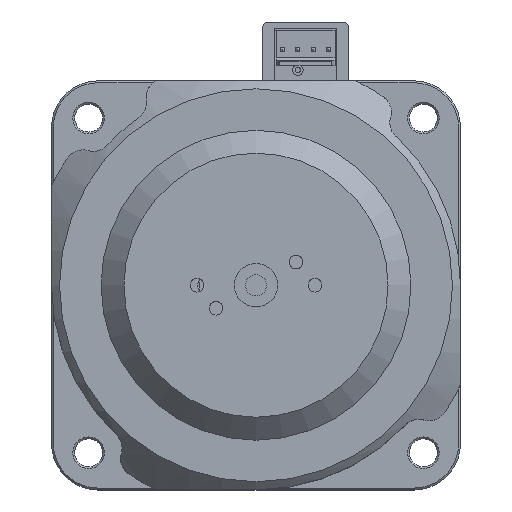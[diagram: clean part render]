
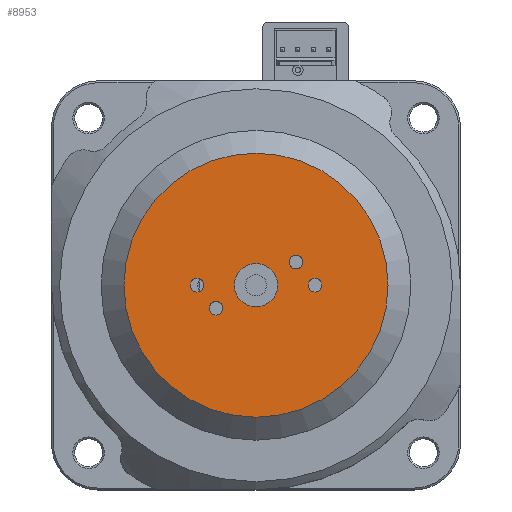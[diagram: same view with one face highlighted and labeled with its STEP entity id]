
A CAD part, top view. The second image highlights one B-rep face of the part: STEP entity #8953.
In plain terms, the highlighted planar face has unit normal (0, 0, 1).
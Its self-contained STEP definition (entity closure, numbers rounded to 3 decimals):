
#25 = AXIS2_PLACEMENT_3D ( 'NONE', #5578, #11596, #7898 ) ;
#384 = EDGE_CURVE ( 'NONE', #412, #412, #3570, .T. ) ;
#401 = DIRECTION ( 'NONE',  ( 1., 0., 0. ) ) ;
#412 = VERTEX_POINT ( 'NONE', #9933 ) ;
#514 = CIRCLE ( 'NONE', #8721, 3.5 ) ;
#961 = EDGE_LOOP ( 'NONE', ( #3564 ) ) ;
#1240 = EDGE_CURVE ( 'NONE', #3286, #3286, #514, .T. ) ;
#1719 = CARTESIAN_POINT ( 'NONE',  ( 6.443, 3.72, 20.8 ) ) ;
#1894 = FACE_BOUND ( 'NONE', #10157, .T. ) ;
#2018 = EDGE_LOOP ( 'NONE', ( #4442 ) ) ;
#2819 = CIRCLE ( 'NONE', #15059, 21.3 ) ;
#2932 = EDGE_CURVE ( 'NONE', #5557, #5557, #3886, .T. ) ;
#3214 = VERTEX_POINT ( 'NONE', #10545 ) ;
#3286 = VERTEX_POINT ( 'NONE', #7875 ) ;
#3369 = CIRCLE ( 'NONE', #14094, 1.1 ) ;
#3445 = EDGE_CURVE ( 'NONE', #3214, #3214, #3369, .T. ) ;
#3564 = ORIENTED_EDGE ( 'NONE', *, *, #3445, .T. ) ;
#3570 = CIRCLE ( 'NONE', #10813, 1.1 ) ;
#3678 = VERTEX_POINT ( 'NONE', #7393 ) ;
#3852 = FACE_OUTER_BOUND ( 'NONE', #2018, .T. ) ;
#3886 = CIRCLE ( 'NONE', #10618, 1.1 ) ;
#4242 = FACE_BOUND ( 'NONE', #14307, .T. ) ;
#4317 = FACE_BOUND ( 'NONE', #961, .T. ) ;
#4442 = ORIENTED_EDGE ( 'NONE', *, *, #7324, .F. ) ;
#4789 = ORIENTED_EDGE ( 'NONE', *, *, #2932, .T. ) ;
#5406 = PLANE ( 'NONE',  #10870 ) ;
#5485 = CARTESIAN_POINT ( 'NONE',  ( 0., 0., 20.8 ) ) ;
#5551 = DIRECTION ( 'NONE',  ( 1., 0., 0. ) ) ;
#5557 = VERTEX_POINT ( 'NONE', #10404 ) ;
#5578 = CARTESIAN_POINT ( 'NONE',  ( -9.525, 0., 20.8 ) ) ;
#6039 = EDGE_LOOP ( 'NONE', ( #15317 ) ) ;
#6549 = CARTESIAN_POINT ( 'NONE',  ( 0., 0., 20.8 ) ) ;
#7324 = EDGE_CURVE ( 'NONE', #3678, #3678, #2819, .T. ) ;
#7393 = CARTESIAN_POINT ( 'NONE',  ( 21.3, 0., 20.8 ) ) ;
#7428 = DIRECTION ( 'NONE',  ( 1., 0., 0. ) ) ;
#7644 = VERTEX_POINT ( 'NONE', #12148 ) ;
#7875 = CARTESIAN_POINT ( 'NONE',  ( 3.5, 0., 20.8 ) ) ;
#7898 = DIRECTION ( 'NONE',  ( 1., 0., 0. ) ) ;
#8635 = CARTESIAN_POINT ( 'NONE',  ( 9.525, 0., 20.8 ) ) ;
#8721 = AXIS2_PLACEMENT_3D ( 'NONE', #6549, #13755, #5551 ) ;
#8772 = DIRECTION ( 'NONE',  ( 0., 0., -1. ) ) ;
#8953 = ADVANCED_FACE ( 'NONE', ( #3852, #4317, #15024, #15179, #4242, #1894 ), #5406, .T. ) ;
#9408 = ORIENTED_EDGE ( 'NONE', *, *, #384, .T. ) ;
#9773 = CIRCLE ( 'NONE', #25, 1.1 ) ;
#9925 = DIRECTION ( 'NONE',  ( 0., 0., -1. ) ) ;
#9933 = CARTESIAN_POINT ( 'NONE',  ( 7.543, 3.72, 20.8 ) ) ;
#9958 = CARTESIAN_POINT ( 'NONE',  ( -6.443, -3.72, 20.8 ) ) ;
#10157 = EDGE_LOOP ( 'NONE', ( #12133 ) ) ;
#10404 = CARTESIAN_POINT ( 'NONE',  ( 10.625, 0., 20.8 ) ) ;
#10407 = DIRECTION ( 'NONE',  ( 1., 0., 0. ) ) ;
#10545 = CARTESIAN_POINT ( 'NONE',  ( -5.343, -3.72, 20.8 ) ) ;
#10618 = AXIS2_PLACEMENT_3D ( 'NONE', #8635, #13346, #11000 ) ;
#10813 = AXIS2_PLACEMENT_3D ( 'NONE', #1719, #9925, #401 ) ;
#10870 = AXIS2_PLACEMENT_3D ( 'NONE', #5485, #11501, #10407 ) ;
#11000 = DIRECTION ( 'NONE',  ( 1., 0., 0. ) ) ;
#11501 = DIRECTION ( 'NONE',  ( 0., 0., 1. ) ) ;
#11511 = EDGE_LOOP ( 'NONE', ( #9408 ) ) ;
#11596 = DIRECTION ( 'NONE',  ( 0., 0., -1. ) ) ;
#12080 = EDGE_CURVE ( 'NONE', #7644, #7644, #9773, .T. ) ;
#12133 = ORIENTED_EDGE ( 'NONE', *, *, #12080, .T. ) ;
#12148 = CARTESIAN_POINT ( 'NONE',  ( -8.425, 0., 20.8 ) ) ;
#12387 = DIRECTION ( 'NONE',  ( 1., 0., 0. ) ) ;
#13077 = CARTESIAN_POINT ( 'NONE',  ( 0., 0., 20.8 ) ) ;
#13346 = DIRECTION ( 'NONE',  ( 0., 0., -1. ) ) ;
#13755 = DIRECTION ( 'NONE',  ( 0., 0., -1. ) ) ;
#14094 = AXIS2_PLACEMENT_3D ( 'NONE', #9958, #8772, #12387 ) ;
#14258 = DIRECTION ( 'NONE',  ( 0., 0., -1. ) ) ;
#14307 = EDGE_LOOP ( 'NONE', ( #4789 ) ) ;
#15024 = FACE_BOUND ( 'NONE', #11511, .T. ) ;
#15059 = AXIS2_PLACEMENT_3D ( 'NONE', #13077, #14258, #7428 ) ;
#15179 = FACE_BOUND ( 'NONE', #6039, .T. ) ;
#15317 = ORIENTED_EDGE ( 'NONE', *, *, #1240, .T. ) ;
